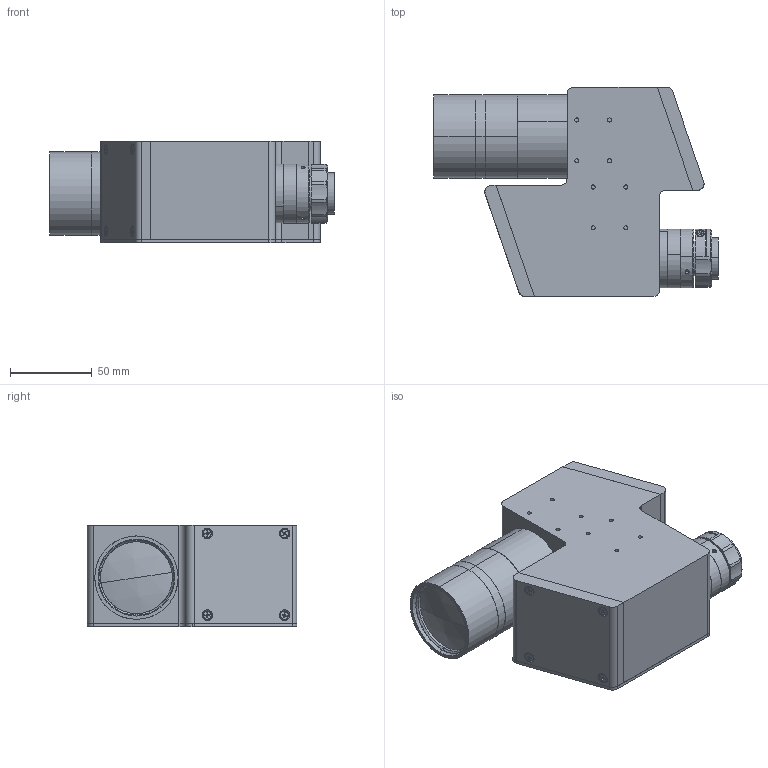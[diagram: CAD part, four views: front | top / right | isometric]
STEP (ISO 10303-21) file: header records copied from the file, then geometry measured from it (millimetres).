
FILE_DESCRIPTION (( 'STEP AP203' ), '1' );
FILE_NAME ('XF-MH085X414.STEP', '2020-08-24T07:17:55', ( 'canrill-02' ), ( '' ), 'SwSTEP 2.0', 'SolidWorks 2014', '' );
FILE_SCHEMA (( 'CONFIG_CONTROL_DESIGN' ));
Length unit declared in the file: millimetre
Products named in the file (1): XF-MH085X414
Bounding box: 174.04 x 128 x 62 mm (x, y, z)
Surface area: 91008.7 mm2 (no closed solid volume)
Topology: 0 solids, 32 shells, 400 faces, 1328 edges, 926 vertices
Faces by surface type: plane 202, cylinder 151, cone 43, sphere 2, torus 2
Entity records: 14866 total; most frequent: CARTESIAN_POINT 2986, DIRECTION 2584, ORIENTED_EDGE 2150, EDGE_CURVE 1326, VERTEX_POINT 926, AXIS2_PLACEMENT_3D 884, LINE 816, VECTOR 816
